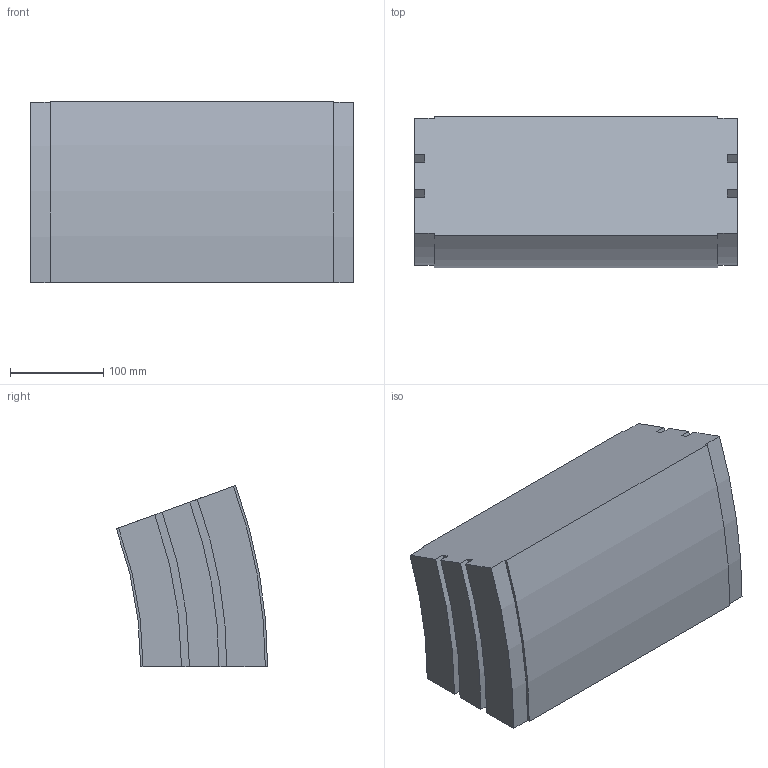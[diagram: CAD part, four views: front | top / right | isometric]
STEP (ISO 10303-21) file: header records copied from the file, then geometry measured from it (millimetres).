
FILE_DESCRIPTION (( 'STEP AP214' ), '1' );
FILE_NAME ('02.150V20.350.N FS-350-MTC-150 Bocht verticaal 20°.STEP', '2013-03-21T10:50:49', ( 'Gebruiker' ), ( '' ), 'SwSTEP 2.0', 'SolidWorks 2012', '' );
FILE_SCHEMA (( 'AUTOMOTIVE_DESIGN' ));
Length unit declared in the file: millimetre
Products named in the file (1): 02.150V20.350.N FS-350-MTC-150 Bocht verticaal 20°
Bounding box: 346 x 162.05 x 194.27 mm (x, y, z)
Volume: 8110894.1 mm3; surface area: 276552.6 mm2
Topology: 1 solids, 1 shells, 30 faces, 84 edges, 56 vertices
Faces by surface type: plane 16, cylinder 14
Entity records: 1010 total; most frequent: DIRECTION 174, CARTESIAN_POINT 171, ORIENTED_EDGE 168, EDGE_CURVE 84, AXIS2_PLACEMENT_3D 59, VERTEX_POINT 56, VECTOR 56, LINE 56
